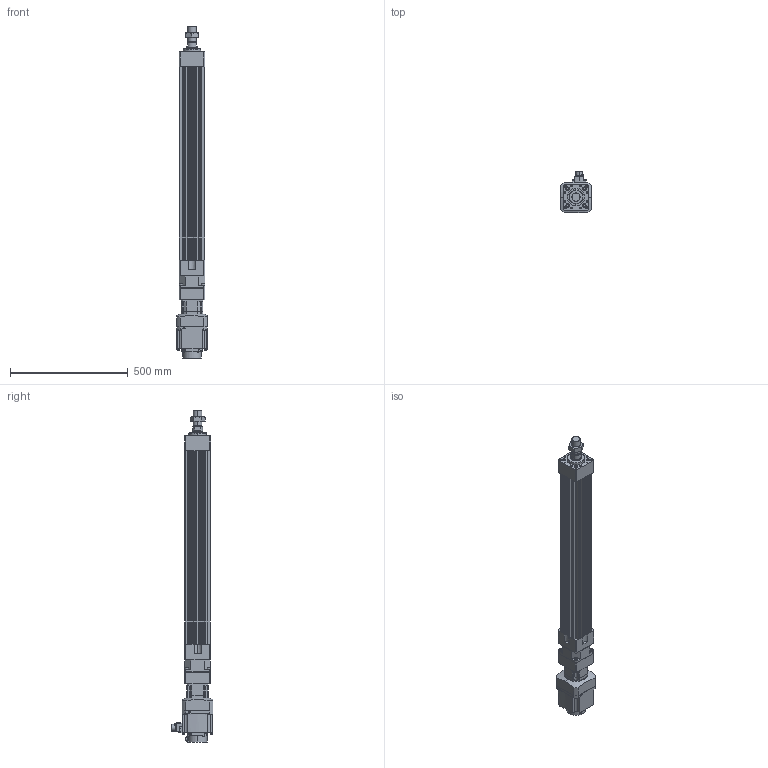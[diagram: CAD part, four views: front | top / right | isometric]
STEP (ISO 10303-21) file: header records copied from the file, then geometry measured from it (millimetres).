
FILE_DESCRIPTION (( 'STEP AP203' ), '1' );
FILE_NAME ('HES110NS(HS)-S650-W010G00-M.STEP', '2023-01-27T05:11:47', ( 'tms' ), ( '' ), 'SwSTEP 2.0', 'SolidWorks 2013', '' );
FILE_SCHEMA (( 'CONFIG_CONTROL_DESIGN' ));
Length unit declared in the file: millimetre
Products named in the file (8): HES110-S650-G090; AB090-003[HG-SR102B]; AB0901; HES110 ROD M ST650; HES110NS(HS)-S650-W010G00-M; M36X1.5P; HG-SR102; P0401301004
Assembly tree (7 placements, depth 3):
  HES110NS(HS)-S650-W010G00-M
    HES110-S650-G090
    HES110 ROD M ST650
    M36X1.5P
    AB090-003[HG-SR102B]
      AB0901
      P0401301004
    HG-SR102
Bounding box: 130 x 177.49 x 1408.5 mm (x, y, z)
Volume: 8960588.6 mm3; surface area: 1256594.2 mm2
Topology: 4 solids, 15 shells, 1197 faces, 3018 edges, 1947 vertices
Faces by surface type: plane 550, cylinder 535, cone 100, bspline 8, torus 4
Entity records: 37761 total; most frequent: CARTESIAN_POINT 7330, DIRECTION 6511, ORIENTED_EDGE 5944, EDGE_CURVE 2982, AXIS2_PLACEMENT_3D 2399, VERTEX_POINT 1947, VECTOR 1713, LINE 1713
